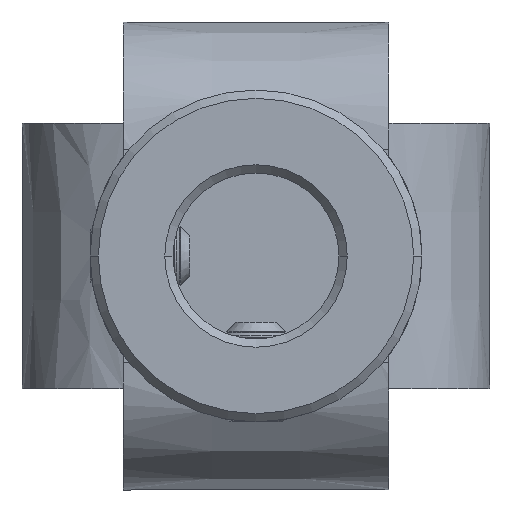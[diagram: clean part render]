
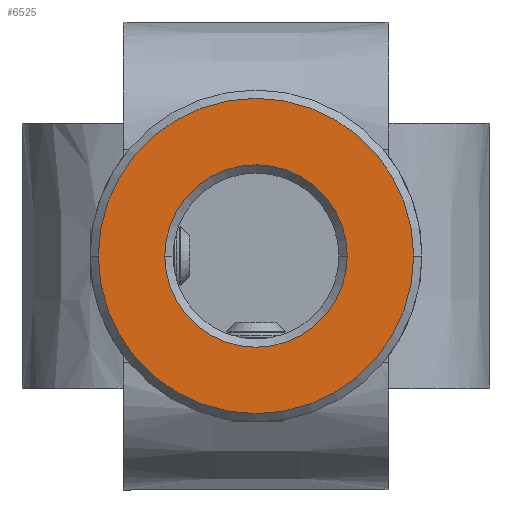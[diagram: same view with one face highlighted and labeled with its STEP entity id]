
A CAD part, front view. The second image highlights one B-rep face of the part: STEP entity #6525.
In plain terms, the highlighted planar face has unit normal (0, -1, 0).
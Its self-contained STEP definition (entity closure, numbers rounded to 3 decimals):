
#675 = PLANE ( 'NONE',  #7447 ) ;
#909 = CARTESIAN_POINT ( 'NONE',  ( -5.5, -35.24, 0. ) ) ;
#1174 = AXIS2_PLACEMENT_3D ( 'NONE', #6801, #3584, #8067 ) ;
#1311 = CIRCLE ( 'NONE', #1174, 5.5 ) ;
#1584 = EDGE_LOOP ( 'NONE', ( #4994, #3346 ) ) ;
#1650 = DIRECTION ( 'NONE',  ( -1., 0., 0. ) ) ;
#1852 = CIRCLE ( 'NONE', #1868, 9.5 ) ;
#1868 = AXIS2_PLACEMENT_3D ( 'NONE', #6494, #7782, #1969 ) ;
#1969 = DIRECTION ( 'NONE',  ( -1., 0., 0. ) ) ;
#2242 = VERTEX_POINT ( 'NONE', #7494 ) ;
#2289 = DIRECTION ( 'NONE',  ( 0., -1., 0. ) ) ;
#2444 = FACE_BOUND ( 'NONE', #1584, .T. ) ;
#3007 = CARTESIAN_POINT ( 'NONE',  ( 9.5, -35.24, 0. ) ) ;
#3346 = ORIENTED_EDGE ( 'NONE', *, *, #8325, .T. ) ;
#3488 = VERTEX_POINT ( 'NONE', #3007 ) ;
#3584 = DIRECTION ( 'NONE',  ( 0., 1., 0. ) ) ;
#3763 = VERTEX_POINT ( 'NONE', #909 ) ;
#3912 = EDGE_LOOP ( 'NONE', ( #5271, #5144 ) ) ;
#4785 = DIRECTION ( 'NONE',  ( 0., 1., 0. ) ) ;
#4994 = ORIENTED_EDGE ( 'NONE', *, *, #5597, .T. ) ;
#5144 = ORIENTED_EDGE ( 'NONE', *, *, #6452, .T. ) ;
#5271 = ORIENTED_EDGE ( 'NONE', *, *, #6656, .T. ) ;
#5459 = AXIS2_PLACEMENT_3D ( 'NONE', #8043, #2289, #1650 ) ;
#5597 = EDGE_CURVE ( 'NONE', #3763, #7382, #7040, .T. ) ;
#5812 = CARTESIAN_POINT ( 'NONE',  ( 0., -35.24, 0. ) ) ;
#5845 = CARTESIAN_POINT ( 'NONE',  ( 5.5, -35.24, 0. ) ) ;
#6452 = EDGE_CURVE ( 'NONE', #2242, #3488, #1852, .T. ) ;
#6494 = CARTESIAN_POINT ( 'NONE',  ( 0., -35.24, 0. ) ) ;
#6525 = ADVANCED_FACE ( 'NONE', ( #2444, #6762 ), #675, .T. ) ;
#6656 = EDGE_CURVE ( 'NONE', #3488, #2242, #7574, .T. ) ;
#6762 = FACE_OUTER_BOUND ( 'NONE', #3912, .T. ) ;
#6801 = CARTESIAN_POINT ( 'NONE',  ( 0., -35.24, 0. ) ) ;
#7040 = CIRCLE ( 'NONE', #7661, 5.5 ) ;
#7093 = DIRECTION ( 'NONE',  ( -1., 0., 0. ) ) ;
#7115 = DIRECTION ( 'NONE',  ( 0., -1., 0. ) ) ;
#7299 = DIRECTION ( 'NONE',  ( -1., 0., 0. ) ) ;
#7325 = CARTESIAN_POINT ( 'NONE',  ( 0., -35.24, 0. ) ) ;
#7382 = VERTEX_POINT ( 'NONE', #5845 ) ;
#7447 = AXIS2_PLACEMENT_3D ( 'NONE', #5812, #7115, #7093 ) ;
#7494 = CARTESIAN_POINT ( 'NONE',  ( -9.5, -35.24, 0. ) ) ;
#7574 = CIRCLE ( 'NONE', #5459, 9.5 ) ;
#7661 = AXIS2_PLACEMENT_3D ( 'NONE', #7325, #4785, #7299 ) ;
#7782 = DIRECTION ( 'NONE',  ( 0., -1., 0. ) ) ;
#8043 = CARTESIAN_POINT ( 'NONE',  ( 0., -35.24, 0. ) ) ;
#8067 = DIRECTION ( 'NONE',  ( -1., 0., 0. ) ) ;
#8325 = EDGE_CURVE ( 'NONE', #7382, #3763, #1311, .T. ) ;
